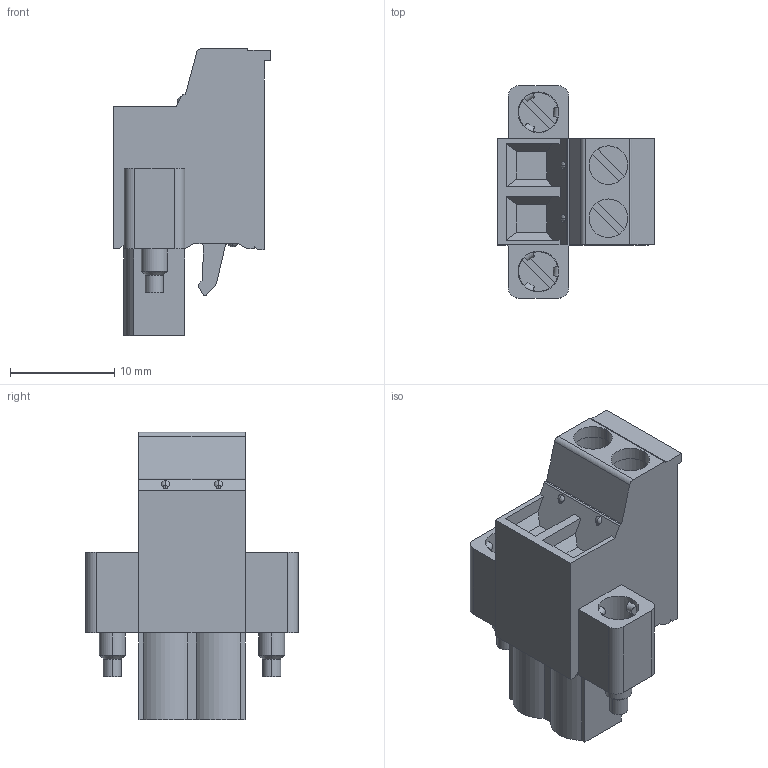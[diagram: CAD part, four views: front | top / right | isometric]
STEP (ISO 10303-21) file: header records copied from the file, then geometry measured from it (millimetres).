
FILE_DESCRIPTION((''),'2;1');
FILE_NAME('CONN_CRIO_2_POS_CMBCN','2007-01-26T',('chrisj'),(''),'PRO/ENGINEER BY PARAMETRIC TECHNOLOGY CORPORATION, 2006080','PRO/ENGINEER BY PARAMETRIC TECHNOLOGY CORPORATION, 2006080','');
FILE_SCHEMA(('AUTOMOTIVE_DESIGN_CC2 { 1 2 10303 214 -1 1 5 2 }'));
Length unit declared in the file: inch
Products named in the file (1): CONN_CRIO_2_POS_CMBCN
Bounding box: 15 x 20.32 x 27.5 mm (x, y, z)
Volume: 2998.5 mm3; surface area: 2241 mm2
Topology: 1 solids, 1 shells, 238 faces, 603 edges, 394 vertices
Faces by surface type: plane 143, cylinder 73, cone 8, sphere 8, torus 6
Entity records: 7268 total; most frequent: DIRECTION 1288, CARTESIAN_POINT 1279, ORIENTED_EDGE 1206, EDGE_CURVE 603, AXIS2_PLACEMENT_3D 453, VERTEX_POINT 394, VECTOR 382, LINE 382
